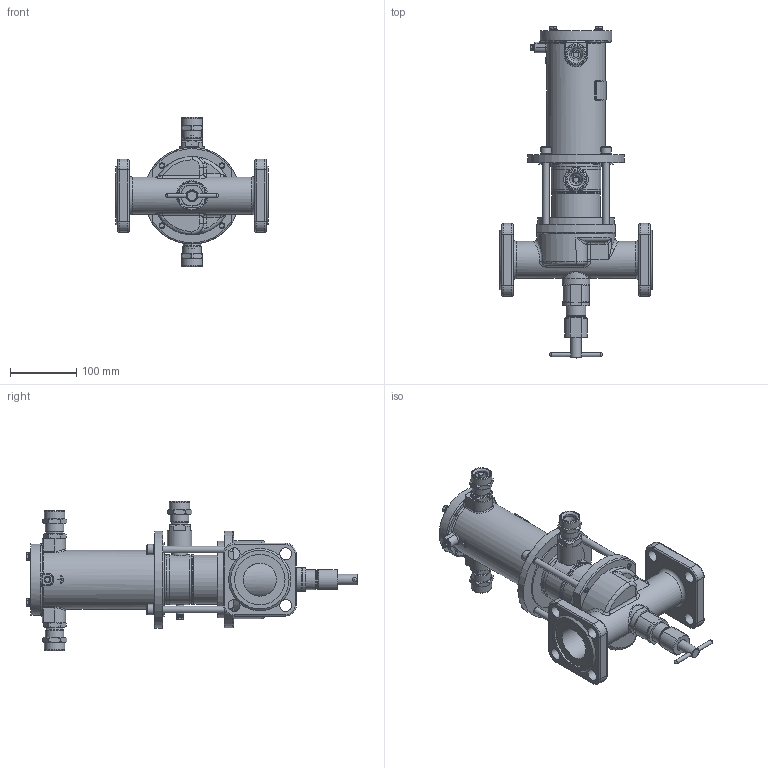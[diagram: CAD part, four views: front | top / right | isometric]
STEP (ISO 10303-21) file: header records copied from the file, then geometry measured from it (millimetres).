
FILE_DESCRIPTION(('STEP AP203'), '1');
FILE_NAME('ÑÅÍÑ DN50PN25-Â-ÄÏ1.stp', '2018-09-19T08:50:09', ('Îðëîâ Å.Â.'), ('ÎÎÎ ÍÏÏ Ñåíñîð'), 'ASCON STEP Converter 1.3', 'Kompas 3D', '');
FILE_SCHEMA(('CONFIG_CONTROL_DESIGN','SUPPORT_RESOURCE_SCHEMA'));
Length unit declared in the file: millimetre
Products named in the file (1): 71
Bounding box: 230 x 500.86 x 225 mm (x, y, z)
Volume: 1729708.4 mm3; surface area: 503140.4 mm2
Topology: 2 solids, 26 shells, 2171 faces, 5656 edges, 3652 vertices
Faces by surface type: cylinder 1084, plane 808, cone 159, torus 53, bspline 47, extrusion 16, sphere 4
Full cylindrical faces by diameter (mm): 2.459 x1, 3.5 x2, 4.134 x6, 4.917 x4, 5 x2, 5.3 x1, 6 x10, 6.5 x4, 8 x10, 8.2 x1, 8.376 x4, 8.5 x1, 10 x6, 11 x5, 12 x6, 13 x4, 16 x6, 16.004 x2, 17 x2, 17.5 x1, 18 x9, 20 x5, 20.9 x1, 22 x2, 22.376 x2, 23 x2, 23.5 x3, 24 x3, 24.5 x2, 25 x2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
Entity records: 84420 total; most frequent: CARTESIAN_POINT 29971, DIRECTION 11803, ORIENTED_EDGE 11252, EDGE_CURVE 5626, AXIS2_PLACEMENT_3D 4564, VERTEX_POINT 3652, VECTOR 2675, LINE 2659
